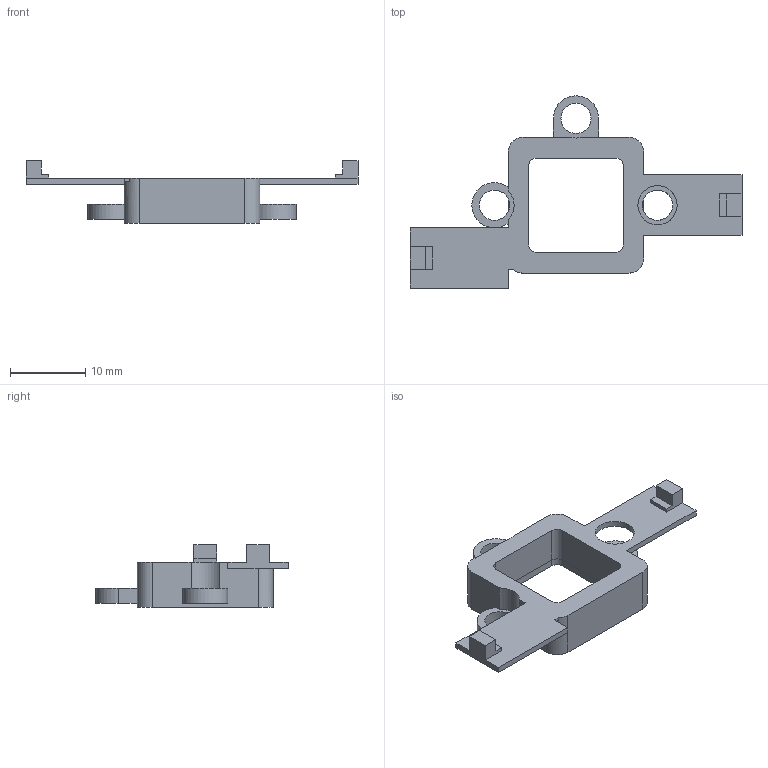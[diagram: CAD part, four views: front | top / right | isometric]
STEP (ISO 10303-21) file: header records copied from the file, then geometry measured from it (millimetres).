
FILE_DESCRIPTION(('Open CASCADE Model'),'2;1');
FILE_NAME('Open CASCADE Shape Model','2026-09-06T11:31:19',('Author'),( 'Open CASCADE'),'Open CASCADE STEP processor 7.7','Open CASCADE 7.7' ,'Unknown');
FILE_SCHEMA(('AUTOMOTIVE_DESIGN { 1 0 10303 214 1 1 1 1 }'));
Length unit declared in the file: millimetre
Products named in the file (1): Open CASCADE STEP translator 7.7 8
Bounding box: 44 x 25.5 x 8.3 mm (x, y, z)
Volume: 1222.8 mm3; surface area: 1730 mm2
Topology: 1 solids, 1 shells, 69 faces, 206 edges, 137 vertices
Faces by surface type: plane 48, cylinder 21
Full cylindrical faces by diameter (mm): 4 x3, 5.2 x1
Entity records: 4994 total; most frequent: CARTESIAN_POINT 995, DIRECTION 712, LINE 440, VECTOR 440, ORIENTED_EDGE 412, PCURVE 412, DEFINITIONAL_REPRESENTATION 412, EDGE_CURVE 206
